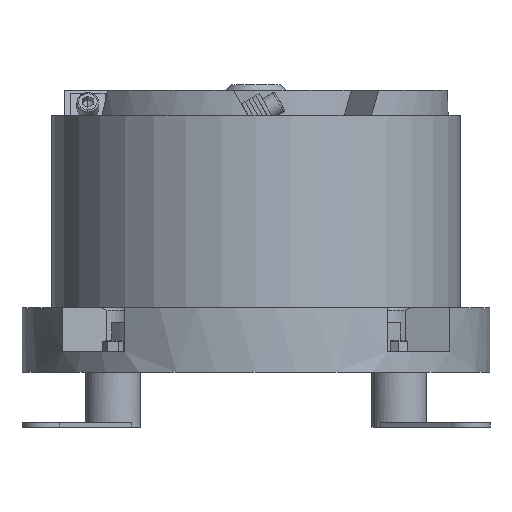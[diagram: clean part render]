
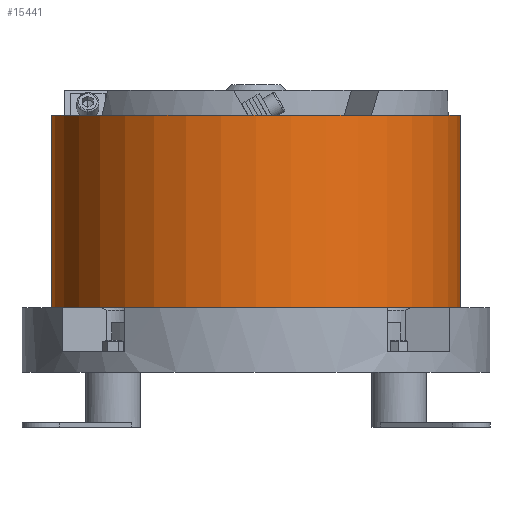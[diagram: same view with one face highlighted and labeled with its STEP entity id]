
A CAD part, front view. The second image highlights one B-rep face of the part: STEP entity #15441.
In plain terms, the highlighted cylindrical face has radius 148.5 mm (diameter 297 mm), a partial arc.
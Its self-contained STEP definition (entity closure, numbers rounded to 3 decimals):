
#391 = DIRECTION ( 'NONE',  ( 1., 0., 0. ) ) ;
#446 = EDGE_CURVE ( 'NONE', #8634, #9948, #9177, .T. ) ;
#634 = DIRECTION ( 'NONE',  ( 0., 0., -1. ) ) ;
#737 = CIRCLE ( 'NONE', #5658, 148.5 ) ;
#1385 = VERTEX_POINT ( 'NONE', #5651 ) ;
#1514 = VERTEX_POINT ( 'NONE', #12288 ) ;
#2577 = AXIS2_PLACEMENT_3D ( 'NONE', #8877, #12304, #10090 ) ;
#2714 = DIRECTION ( 'NONE',  ( 0., 0., 1. ) ) ;
#2899 = DIRECTION ( 'NONE',  ( 0., 0., 1. ) ) ;
#2948 = DIRECTION ( 'NONE',  ( 0., 0., 1. ) ) ;
#3173 = EDGE_LOOP ( 'NONE', ( #9179, #4710, #14965, #10685 ) ) ;
#4710 = ORIENTED_EDGE ( 'NONE', *, *, #13501, .T. ) ;
#4895 = EDGE_CURVE ( 'NONE', #1385, #1514, #10313, .T. ) ;
#5589 = DIRECTION ( 'NONE',  ( 1., 0., 0. ) ) ;
#5651 = CARTESIAN_POINT ( 'NONE',  ( -3280.39, -3704.786, -6. ) ) ;
#5658 = AXIS2_PLACEMENT_3D ( 'NONE', #8213, #634, #5589 ) ;
#6325 = FACE_OUTER_BOUND ( 'NONE', #3173, .T. ) ;
#6559 = CARTESIAN_POINT ( 'NONE',  ( -3577.39, -3704.786, -6. ) ) ;
#7158 = AXIS2_PLACEMENT_3D ( 'NONE', #11487, #2899, #391 ) ;
#8213 = CARTESIAN_POINT ( 'NONE',  ( -3428.89, -3704.786, 134. ) ) ;
#8634 = VERTEX_POINT ( 'NONE', #10937 ) ;
#8877 = CARTESIAN_POINT ( 'NONE',  ( -3428.89, -3704.786, -6. ) ) ;
#9008 = EDGE_CURVE ( 'NONE', #1514, #9948, #737, .T. ) ;
#9177 = LINE ( 'NONE', #6559, #11798 ) ;
#9179 = ORIENTED_EDGE ( 'NONE', *, *, #446, .F. ) ;
#9948 = VERTEX_POINT ( 'NONE', #11094 ) ;
#10090 = DIRECTION ( 'NONE',  ( 1., 0., 0. ) ) ;
#10313 = LINE ( 'NONE', #13986, #10735 ) ;
#10685 = ORIENTED_EDGE ( 'NONE', *, *, #9008, .T. ) ;
#10735 = VECTOR ( 'NONE', #2714, 1000. ) ;
#10937 = CARTESIAN_POINT ( 'NONE',  ( -3577.39, -3704.786, -6. ) ) ;
#11077 = CYLINDRICAL_SURFACE ( 'NONE', #2577, 148.5 ) ;
#11094 = CARTESIAN_POINT ( 'NONE',  ( -3577.39, -3704.786, 134. ) ) ;
#11487 = CARTESIAN_POINT ( 'NONE',  ( -3428.89, -3704.786, -6. ) ) ;
#11798 = VECTOR ( 'NONE', #2948, 1000. ) ;
#11867 = CIRCLE ( 'NONE', #7158, 148.5 ) ;
#12288 = CARTESIAN_POINT ( 'NONE',  ( -3280.39, -3704.786, 134. ) ) ;
#12304 = DIRECTION ( 'NONE',  ( 0., 0., 1. ) ) ;
#13501 = EDGE_CURVE ( 'NONE', #8634, #1385, #11867, .T. ) ;
#13986 = CARTESIAN_POINT ( 'NONE',  ( -3280.39, -3704.786, -6. ) ) ;
#14965 = ORIENTED_EDGE ( 'NONE', *, *, #4895, .T. ) ;
#15441 = ADVANCED_FACE ( 'NONE', ( #6325 ), #11077, .T. ) ;
